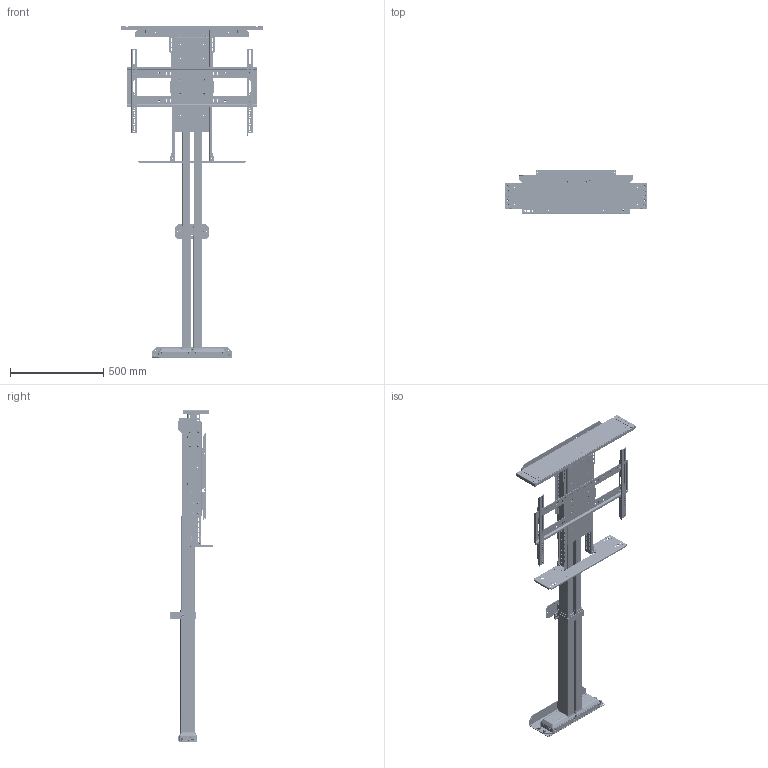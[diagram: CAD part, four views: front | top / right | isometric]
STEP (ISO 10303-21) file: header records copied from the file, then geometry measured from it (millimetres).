
FILE_DESCRIPTION(/* description */ ('STEP AP242','CAx-IF Rec.Pracs.---Representation and Presentation of Product Manufacturing Information (PMI)---4.0---2014-10-13','CAx-IF Rec.Pracs.---3D Tessellated Geometry---0.4---2014-09-14','2;1'),/* implementation_level */ '2;1');
FILE_NAME(/* name */ '65523c089b98ac61b84e0c6e',/* time_stamp */ '2023-11-13T15:09:00Z',/* author */ (''),/* organization */ (''),/* preprocessor_version */ 'ST-DEVELOPER v19.4',/* originating_system */ ' ',/* authorisation */ ' ');
FILE_SCHEMA (('AP242_MANAGED_MODEL_BASED_3D_ENGINEERING_MIM_LF { 1 0 10303 442 1 1 4 }'));
Products named in the file (59): DL-65en/s (HD); Socket button head screw M6x1 x 12; Socket button head screw M6x1 x 16; Hex socket countersunk head screw M6x1 x 12; WDS8151-215; ULS-NX-032 - HD Quick Release LC Mount; ULS-NX-029 - HD Column Clamp; L65 PS Adapter; Lift Column H <1>; L45 LC Inner Profile; L45 LC Motor Housing; L45 LC Middle Profile; Lift Column H <2>; ULS-NX-103 - ULS EN HD REAR SUPPORT WELDMENT <1>; ULS-NX-103 - ULS EN REAR SUPPORT; PEM FHS-M6-12  ; ULS-NX-013 -- L77OPU SS 013  - Rev B; ULS-NX-036 - ULS EN HD QR Base Mount <1>; ULS-NX-036 - ULS EN HD QR Base Mount; DL-65en 033 Lower Brkt Asm <1>; PEM CLS-M6-1  ; ULS-NX-016 - UL ACCESSORY PLATE; ULS-NX-033 -- L77OPU SS 033 - Rev B; SS Fixed Short - Rev B2 <1>; PEM CLS-M6-1; PEM Nut F-M4-2; PS Screen Support Fixed 01; PEM Nut CLSS-M5-1; L-65 HD Lid Plate Assembly w/ Lid Supports <1>; ULS-NX-039 - ULS HD LID SUPPORT w/ PEMs <2>; PEM CLS-M6-00  ; ULS-NX-039 -- ULS HD LID SUPPORT; ULS-NX-039 - ULS HD LID SUPPORT w/ PEMs <1>; L-65 HD Lid Plate Assembly w/ Lid Adapter <1>; PEM S-M6-1  ZI; Hex socket countersunk head screw M6x1 x 10; 97069A106_Zinc-Plated Steel Spring Lock Washer; Plain washer extra large grade C M6; Hex thin nut grade A & B M6; L-85 TOP PLATE EXTENSION REV B (L85-LM-057)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
Assembly tree (226 placements, depth 5):
  DL-65en/s (HD)
    Socket button head screw M6x1 x 12  x20
    Socket button head screw M6x1 x 16  x8
    Hex socket countersunk head screw M6x1 x 12  x17
    WDS8151-215  x6
    ULS-NX-032 - HD Quick Release LC Mount
    ULS-NX-029 - HD Column Clamp
    L65 PS Adapter
    Lift Column H <1>
      L45 LC Inner Profile
      L45 LC Motor Housing
      L45 LC Middle Profile
    Lift Column H <2>
      L45 LC Middle Profile
      L45 LC Motor Housing
      L45 LC Inner Profile
    ULS-NX-103 - ULS EN HD REAR SUPPORT WELDMENT <1>
      ULS-NX-103 - ULS EN REAR SUPPORT  x2
      PEM FHS-M6-12    x2
    ULS-NX-013 -- L77OPU SS 013  - Rev B
    ULS-NX-036 - ULS EN HD QR Base Mount <1>
      PEM FHS-M6-12    x4
      ULS-NX-036 - ULS EN HD QR Base Mount
    DL-65en 033 Lower Brkt Asm <1>
      PEM CLS-M6-1    x8
      ULS-NX-016 - UL ACCESSORY PLATE
      Hex socket countersunk head screw M6x1 x 12  x4
      ULS-NX-033 -- L77OPU SS 033 - Rev B  x2
    SS Fixed Short - Rev B2 <1>
      PEM CLS-M6-1  x42
      PEM Nut F-M4-2  x8
      PS Screen Support Fixed 01
      PEM Nut CLSS-M5-1  x2
      L65 PS Adapter
    L-65 HD Lid Plate Assembly w/ Lid Supports <1>
      Hex socket countersunk head screw M6x1 x 12  x4
      ULS-NX-039 - ULS HD LID SUPPORT w/ PEMs <2>
        PEM CLS-M6-00    x2
        ULS-NX-039 -- ULS HD LID SUPPORT
      ULS-NX-039 - ULS HD LID SUPPORT w/ PEMs <1>
        ULS-NX-039 -- ULS HD LID SUPPORT
        PEM CLS-M6-00    x2
      L-65 HD Lid Plate Assembly w/ Lid Adapter <1>
        PEM S-M6-1  ZI  x6
        Hex socket countersunk head screw M6x1 x 10  x4
        97069A106_Zinc-Plated Steel Spring Lock Washer  x4
        Plain washer extra large grade C M6  x4
        Hex thin nut grade A & B M6  x4
        L-85 TOP PLATE EXTENSION REV B (L85-LM-057)  x2
        PEM FH-M6-18  ZI  x4
        L-85 TOP PLATE REV C (L85-LM-056)
        NEX-LM-032 -- LID PIN GUIDE  x2
        L85-LM-058 - Lid Adapter Plate Rev F <1>
          L-85 LID ADAPTER REV F (L85-LM-058)
          Self Clinching Pilot Pin  x2
    SBP & VMB <1>
      PZ Pan head screw M5x0.80 x 25  x2
      ULS-NX-118 - UL VMB WELDMENT <1>
        VMB Washer  x4
        ULS-NX-020 - UL SCREEN LOCK
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Bounding box: 768.1 x 240.04 x 1784.03 mm (x, y, z)
Volume: 17302715.5 mm3; surface area: 3421013.7 mm2
Topology: 212 solids, 212 shells, 13052 faces, 34199 edges, 22079 vertices
Faces by surface type: plane 8282, cylinder 2955, cone 946, bspline 520, torus 283, sphere 66
Full cylindrical faces by diameter (mm): 2.642 x4, 3.505 x4, 4 x8, 4.496 x6, 4.6 x4, 4.917 x64, 4.978 x4, 5 x36, 5.026 x4, 5.08 x10, 5.277 x8, 5.3 x12, 5.385 x12, 5.41 x8, 5.6 x8, 5.944 x4, 5.994 x4, 6 x99, 6.35 x40, 6.4 x20, 6.6 x18, 6.655 x4, 6.934 x2, 7.112 x2, 7.37 x16, 7.493 x2, 7.925 x2, 8.128 x34, 8.509 x2, 8.64 x2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
Entity records: 118224 total; most frequent: CARTESIAN_POINT 22968, DIRECTION 18743, ORIENTED_EDGE 18084, EDGE_CURVE 9042, AXIS2_PLACEMENT_3D 6429, VERTEX_POINT 6083, LINE 5885, VECTOR 5885
